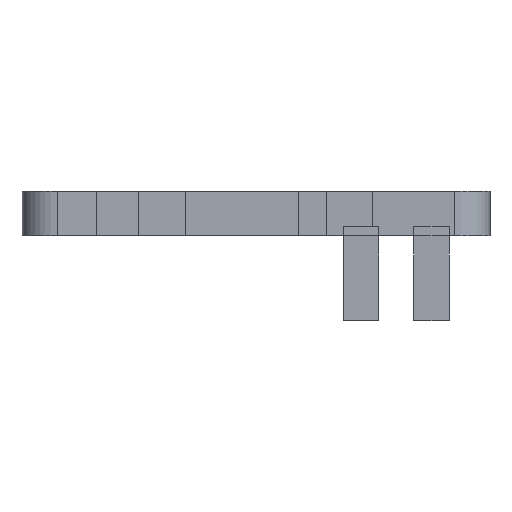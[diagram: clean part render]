
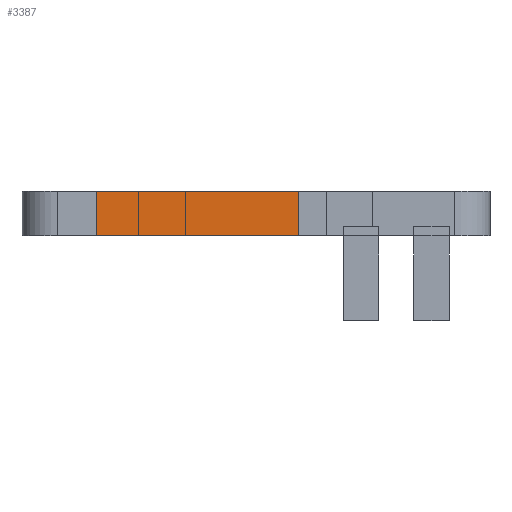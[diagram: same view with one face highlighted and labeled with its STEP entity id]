
A CAD part, left-side view. The second image highlights one B-rep face of the part: STEP entity #3387.
In plain terms, the highlighted planar face has unit normal (-1, 0, 0).
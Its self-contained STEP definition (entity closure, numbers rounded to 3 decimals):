
#72 = PLANE('',#73);
#73 = AXIS2_PLACEMENT_3D('',#74,#75,#76);
#74 = CARTESIAN_POINT('',(-32.,-15.,0.7));
#75 = DIRECTION('',(0.,0.,1.));
#76 = DIRECTION('',(1.,0.,-0.));
#313 = PLANE('',#314);
#314 = AXIS2_PLACEMENT_3D('',#315,#316,#317);
#315 = CARTESIAN_POINT('',(-39.15,1.35,-4.65));
#316 = DIRECTION('',(0.,1.,0.));
#317 = DIRECTION('',(0.,0.,1.));
#338 = PLANE('',#339);
#339 = AXIS2_PLACEMENT_3D('',#340,#341,#342);
#340 = CARTESIAN_POINT('',(-32.,-15.,4.5));
#341 = DIRECTION('',(0.,0.,1.));
#342 = DIRECTION('',(1.,0.,-0.));
#967 = VERTEX_POINT('',#968);
#968 = CARTESIAN_POINT('',(-31.95,18.65,4.5));
#981 = PLANE('',#982);
#982 = AXIS2_PLACEMENT_3D('',#983,#984,#985);
#983 = CARTESIAN_POINT('',(-39.15,18.65,-4.65));
#984 = DIRECTION('',(0.,1.,0.));
#985 = DIRECTION('',(0.,0.,1.));
#992 = EDGE_CURVE('',#993,#967,#995,.T.);
#993 = VERTEX_POINT('',#994);
#994 = CARTESIAN_POINT('',(-31.95,1.35,4.5));
#995 = SURFACE_CURVE('',#996,(#1000,#1006),.PCURVE_S1.);
#996 = LINE('',#997,#998);
#997 = CARTESIAN_POINT('',(-31.95,-6.825,4.5));
#998 = VECTOR('',#999,1.);
#999 = DIRECTION('',(0.,1.,0.));
#1000 = PCURVE('',#338,#1001);
#1001 = DEFINITIONAL_REPRESENTATION('',(#1002),#1005);
#1002 = B_SPLINE_CURVE_WITH_KNOTS('',1,(#1003,#1004),.UNSPECIFIED.,.F.,
  .F.,(2,2),(8.175,25.475),.PIECEWISE_BEZIER_KNOTS.);
#1003 = CARTESIAN_POINT('',(0.05,16.35));
#1004 = CARTESIAN_POINT('',(0.05,33.65));
#1005 = ( GEOMETRIC_REPRESENTATION_CONTEXT(2) 
PARAMETRIC_REPRESENTATION_CONTEXT() REPRESENTATION_CONTEXT('2D SPACE',''
  ) );
#1006 = PCURVE('',#1007,#1012);
#1007 = PLANE('',#1008);
#1008 = AXIS2_PLACEMENT_3D('',#1009,#1010,#1011);
#1009 = CARTESIAN_POINT('',(-31.95,1.35,-4.65));
#1010 = DIRECTION('',(1.,0.,0.));
#1011 = DIRECTION('',(0.,0.,1.));
#1012 = DEFINITIONAL_REPRESENTATION('',(#1013),#1016);
#1013 = B_SPLINE_CURVE_WITH_KNOTS('',1,(#1014,#1015),.UNSPECIFIED.,.F.,
  .F.,(2,2),(8.175,25.475),.PIECEWISE_BEZIER_KNOTS.);
#1014 = CARTESIAN_POINT('',(9.15,0.));
#1015 = CARTESIAN_POINT('',(9.15,-17.3));
#1016 = ( GEOMETRIC_REPRESENTATION_CONTEXT(2) 
PARAMETRIC_REPRESENTATION_CONTEXT() REPRESENTATION_CONTEXT('2D SPACE',''
  ) );
#1382 = EDGE_CURVE('',#1383,#993,#1385,.T.);
#1383 = VERTEX_POINT('',#1384);
#1384 = CARTESIAN_POINT('',(-31.95,1.35,0.7));
#1385 = SURFACE_CURVE('',#1386,(#1390,#1397),.PCURVE_S1.);
#1386 = LINE('',#1387,#1388);
#1387 = CARTESIAN_POINT('',(-31.95,1.35,-4.65));
#1388 = VECTOR('',#1389,1.);
#1389 = DIRECTION('',(0.,0.,1.));
#1390 = PCURVE('',#313,#1391);
#1391 = DEFINITIONAL_REPRESENTATION('',(#1392),#1396);
#1392 = LINE('',#1393,#1394);
#1393 = CARTESIAN_POINT('',(0.,7.2));
#1394 = VECTOR('',#1395,1.);
#1395 = DIRECTION('',(1.,0.));
#1396 = ( GEOMETRIC_REPRESENTATION_CONTEXT(2) 
PARAMETRIC_REPRESENTATION_CONTEXT() REPRESENTATION_CONTEXT('2D SPACE',''
  ) );
#1397 = PCURVE('',#1007,#1398);
#1398 = DEFINITIONAL_REPRESENTATION('',(#1399),#1403);
#1399 = LINE('',#1400,#1401);
#1400 = CARTESIAN_POINT('',(0.,0.));
#1401 = VECTOR('',#1402,1.);
#1402 = DIRECTION('',(1.,0.));
#1403 = ( GEOMETRIC_REPRESENTATION_CONTEXT(2) 
PARAMETRIC_REPRESENTATION_CONTEXT() REPRESENTATION_CONTEXT('2D SPACE',''
  ) );
#2186 = VERTEX_POINT('',#2187);
#2187 = CARTESIAN_POINT('',(-31.95,18.65,0.7));
#2206 = EDGE_CURVE('',#1383,#2186,#2207,.T.);
#2207 = SURFACE_CURVE('',#2208,(#2212,#2218),.PCURVE_S1.);
#2208 = LINE('',#2209,#2210);
#2209 = CARTESIAN_POINT('',(-31.95,-6.825,0.7));
#2210 = VECTOR('',#2211,1.);
#2211 = DIRECTION('',(0.,1.,0.));
#2212 = PCURVE('',#72,#2213);
#2213 = DEFINITIONAL_REPRESENTATION('',(#2214),#2217);
#2214 = B_SPLINE_CURVE_WITH_KNOTS('',1,(#2215,#2216),.UNSPECIFIED.,.F.,
  .F.,(2,2),(8.175,25.475),.PIECEWISE_BEZIER_KNOTS.);
#2215 = CARTESIAN_POINT('',(0.05,16.35));
#2216 = CARTESIAN_POINT('',(0.05,33.65));
#2217 = ( GEOMETRIC_REPRESENTATION_CONTEXT(2) 
PARAMETRIC_REPRESENTATION_CONTEXT() REPRESENTATION_CONTEXT('2D SPACE',''
  ) );
#2218 = PCURVE('',#1007,#2219);
#2219 = DEFINITIONAL_REPRESENTATION('',(#2220),#2223);
#2220 = B_SPLINE_CURVE_WITH_KNOTS('',1,(#2221,#2222),.UNSPECIFIED.,.F.,
  .F.,(2,2),(8.175,25.475),.PIECEWISE_BEZIER_KNOTS.);
#2221 = CARTESIAN_POINT('',(5.35,0.));
#2222 = CARTESIAN_POINT('',(5.35,-17.3));
#2223 = ( GEOMETRIC_REPRESENTATION_CONTEXT(2) 
PARAMETRIC_REPRESENTATION_CONTEXT() REPRESENTATION_CONTEXT('2D SPACE',''
  ) );
#3387 = ADVANCED_FACE('',(#3388),#1007,.F.);
#3388 = FACE_BOUND('',#3389,.F.);
#3389 = EDGE_LOOP('',(#3390,#3391,#3392,#3413));
#3390 = ORIENTED_EDGE('',*,*,#1382,.F.);
#3391 = ORIENTED_EDGE('',*,*,#2206,.T.);
#3392 = ORIENTED_EDGE('',*,*,#3393,.T.);
#3393 = EDGE_CURVE('',#2186,#967,#3394,.T.);
#3394 = SURFACE_CURVE('',#3395,(#3399,#3406),.PCURVE_S1.);
#3395 = LINE('',#3396,#3397);
#3396 = CARTESIAN_POINT('',(-31.95,18.65,-4.65));
#3397 = VECTOR('',#3398,1.);
#3398 = DIRECTION('',(0.,0.,1.));
#3399 = PCURVE('',#1007,#3400);
#3400 = DEFINITIONAL_REPRESENTATION('',(#3401),#3405);
#3401 = LINE('',#3402,#3403);
#3402 = CARTESIAN_POINT('',(0.,-17.3));
#3403 = VECTOR('',#3404,1.);
#3404 = DIRECTION('',(1.,0.));
#3405 = ( GEOMETRIC_REPRESENTATION_CONTEXT(2) 
PARAMETRIC_REPRESENTATION_CONTEXT() REPRESENTATION_CONTEXT('2D SPACE',''
  ) );
#3406 = PCURVE('',#981,#3407);
#3407 = DEFINITIONAL_REPRESENTATION('',(#3408),#3412);
#3408 = LINE('',#3409,#3410);
#3409 = CARTESIAN_POINT('',(0.,7.2));
#3410 = VECTOR('',#3411,1.);
#3411 = DIRECTION('',(1.,0.));
#3412 = ( GEOMETRIC_REPRESENTATION_CONTEXT(2) 
PARAMETRIC_REPRESENTATION_CONTEXT() REPRESENTATION_CONTEXT('2D SPACE',''
  ) );
#3413 = ORIENTED_EDGE('',*,*,#992,.F.);
